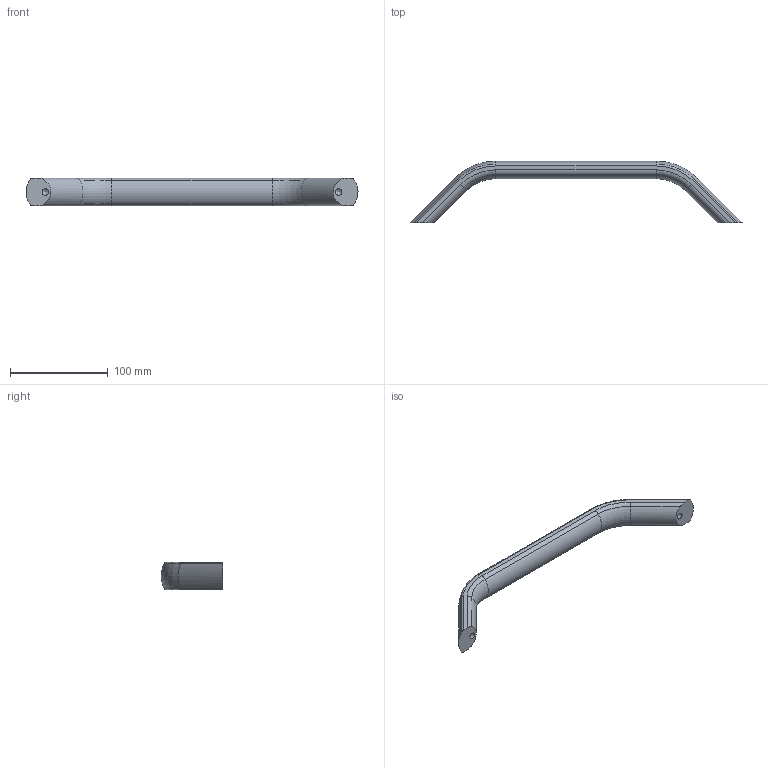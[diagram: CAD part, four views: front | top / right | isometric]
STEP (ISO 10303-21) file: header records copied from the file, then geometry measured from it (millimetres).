
FILE_DESCRIPTION( ( 'STEP AP203' ), '1' );
FILE_NAME( 'C:/Temp/Ganter_Step_05_03_2020/data/1_2/gn_428/gn_428_a/Cabinet U-handle GN 428-AL-28-300-A-EL.stp', '2020-03-05T10:11:28', ( 'License CC BY-ND 4.0' ), ( 'CADENAS' ), ' ', 'PARTsolutions', ' ' );
FILE_SCHEMA( ( 'CONFIG_CONTROL_DESIGN' ) );
Length unit declared in the file: millimetre
Products named in the file (1): _Cabinet U-handle GN 428-AL-28-300-A-EL
Bounding box: 339.43 x 63 x 28 mm (x, y, z)
Volume: 145449.8 mm3; surface area: 28662.6 mm2
Topology: 1 solids, 1 shells, 38 faces, 90 edges, 54 vertices
Faces by surface type: cylinder 20, torus 12, plane 4, cone 2
Full cylindrical faces by diameter (mm): 6.647 x2
Entity records: 1120 total; most frequent: DIRECTION 218, CARTESIAN_POINT 177, ORIENTED_EDGE 168, AXIS2_PLACEMENT_3D 95, EDGE_CURVE 84, VERTEX_POINT 54, CIRCLE 44, EDGE_LOOP 42
